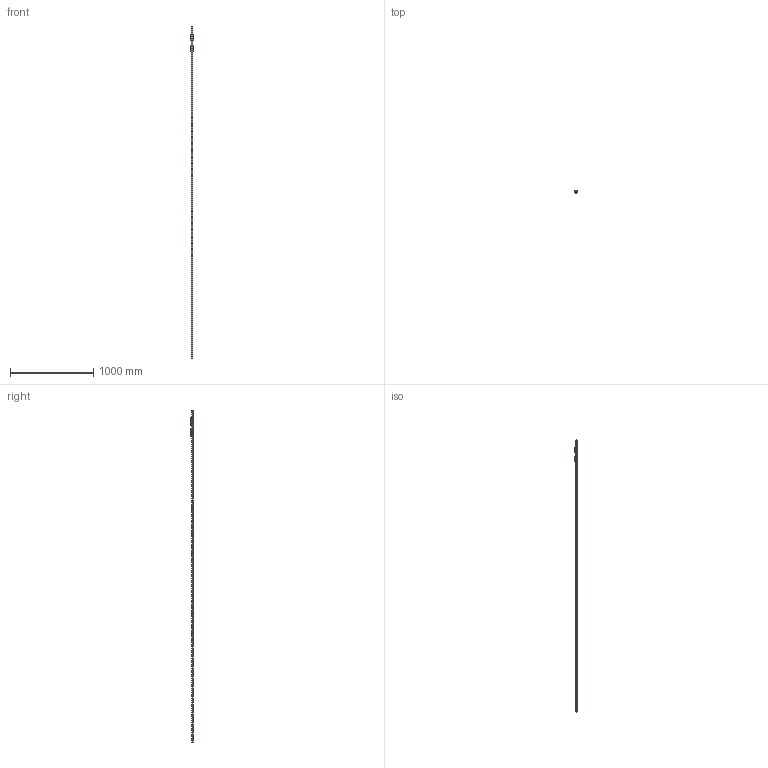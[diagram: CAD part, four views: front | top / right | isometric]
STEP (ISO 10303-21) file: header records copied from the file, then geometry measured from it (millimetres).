
FILE_DESCRIPTION((''),'2;1');
FILE_NAME('BRS20-U0_CUSTOMER_ASM_1_ASM_1_ASM','2020-11-25T08:37:29',('TWVS2025'),(''),'CREO PARAMETRIC BY PTC INC, 2018420','CREO PARAMETRIC BY PTC INC, 2018420','');
FILE_SCHEMA(('CONFIG_CONTROL_DESIGN'));
Products named in the file (5): BC-BRC20-U0_ASM_1_1; BRR20_CUSTOMER_1_1_1_2_3_4_5; BC-BRD20-U0_ASM_ASM_1_1; BC-BRD20-U0_ASM_ASM_1_ASM; BRS20-U0_CUSTOMER_ASM_1_ASM_1_ASM
Assembly tree (4 placements, depth 3):
  BRS20-U0_CUSTOMER_ASM_1_ASM_1_ASM
    BC-BRC20-U0_ASM_1_1
    BRR20_CUSTOMER_1_1_1_2_3_4_5
    BC-BRD20-U0_ASM_ASM_1_ASM
      BC-BRD20-U0_ASM_ASM_1_1
Bounding box: 41.95 x 28 x 4000 mm (x, y, z)
Volume: 1234405.3 mm3; surface area: 376341.9 mm2
Topology: 2 solids, 8 shells, 2683 faces, 7504 edges, 4835 vertices
Faces by surface type: plane 1314, cylinder 742, cone 365, torus 168, bspline 68, sphere 12, extrusion 8, revolution 6
Entity records: 104562 total; most frequent: CARTESIAN_POINT 35916, ORIENTED_EDGE 14892, DIRECTION 13661, EDGE_CURVE 7468, VERTEX_POINT 4835, AXIS2_PLACEMENT_3D 4715, VECTOR 4225, LINE 4217
